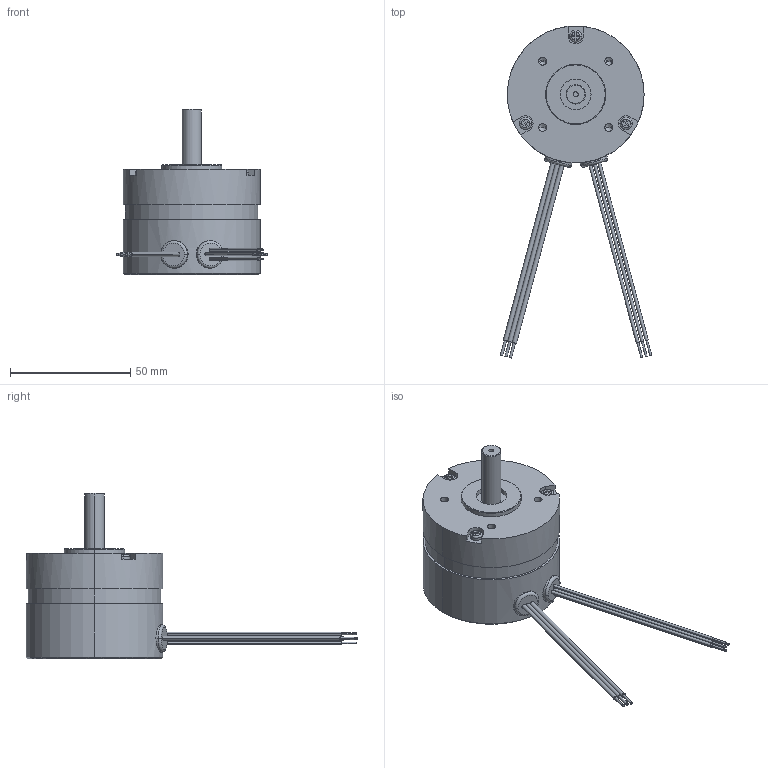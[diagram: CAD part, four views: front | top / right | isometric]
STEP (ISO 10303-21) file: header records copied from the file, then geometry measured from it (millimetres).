
FILE_DESCRIPTION (( 'STEP AP214' ), '1' );
FILE_NAME ('BLWR231S.STEP', '2013-07-24T21:40:58', ( '' ), ( '' ), 'SwSTEP 2.0', 'SolidWorks 2013', '' );
FILE_SCHEMA (( 'AUTOMOTIVE_DESIGN' ));
Length unit declared in the file: inch
Products named in the file (1): BLWR231S
Bounding box: 62.81 x 137.75 x 68.58 mm (x, y, z)
Volume: 111861.5 mm3; surface area: 18124.4 mm2
Topology: 1 solids, 1 shells, 277 faces, 677 edges, 429 vertices
Faces by surface type: plane 129, cylinder 106, cone 28, torus 14
Entity records: 12006 total; most frequent: CARTESIAN_POINT 1792, DIRECTION 1427, ORIENTED_EDGE 1326, EDGE_CURVE 663, AXIS2_PLACEMENT_3D 556, VERTEX_POINT 429, EDGE_LOOP 318, LINE 315
